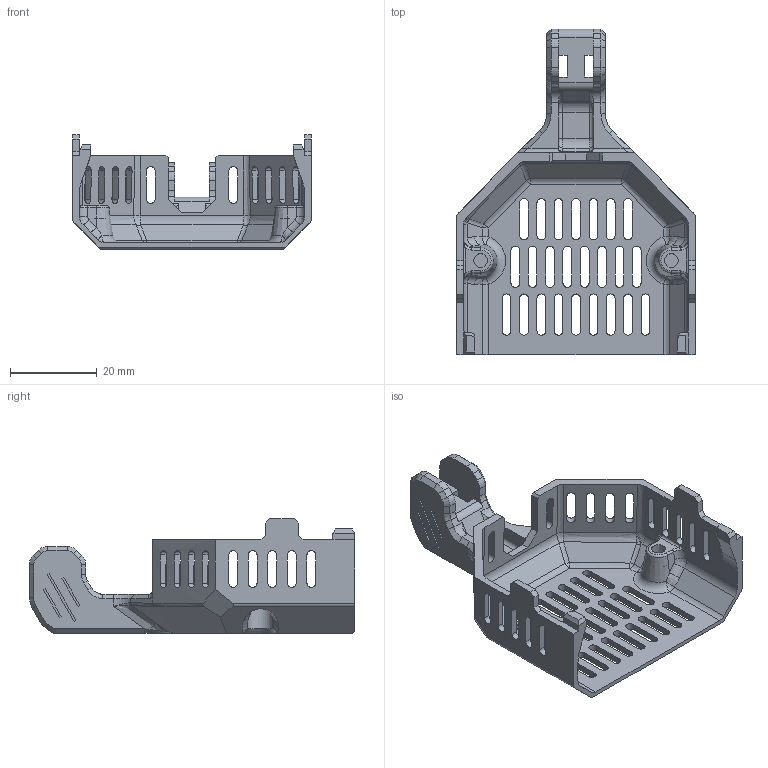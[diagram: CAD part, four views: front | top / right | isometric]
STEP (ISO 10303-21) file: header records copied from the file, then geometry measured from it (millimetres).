
FILE_DESCRIPTION (( 'STEP AP214' ), '1' );
FILE_NAME ('ToolHead_Back_Shroud_Passive.STEP', '2025-06-09T06:07:32', ( '' ), ( '' ), 'SwSTEP 2.0', 'SolidWorks 2021', '' );
FILE_SCHEMA (( 'AUTOMOTIVE_DESIGN' ));
Length unit declared in the file: millimetre
Products named in the file (1): ToolHead_Back_Shroud_Passive
Bounding box: 55 x 75 x 26.4 mm (x, y, z)
Volume: 9928.6 mm3; surface area: 11769.1 mm2
Topology: 1 solids, 1 shells, 524 faces, 1406 edges, 876 vertices
Faces by surface type: plane 243, cylinder 161, bspline 78, cone 22, sphere 12, torus 8
Full cylindrical faces by diameter (mm): 3.2 x2, 6 x2
Entity records: 19493 total; most frequent: CARTESIAN_POINT 6910, ORIENTED_EDGE 2772, DIRECTION 2354, EDGE_CURVE 1386, VERTEX_POINT 874, VECTOR 808, LINE 808, AXIS2_PLACEMENT_3D 773
